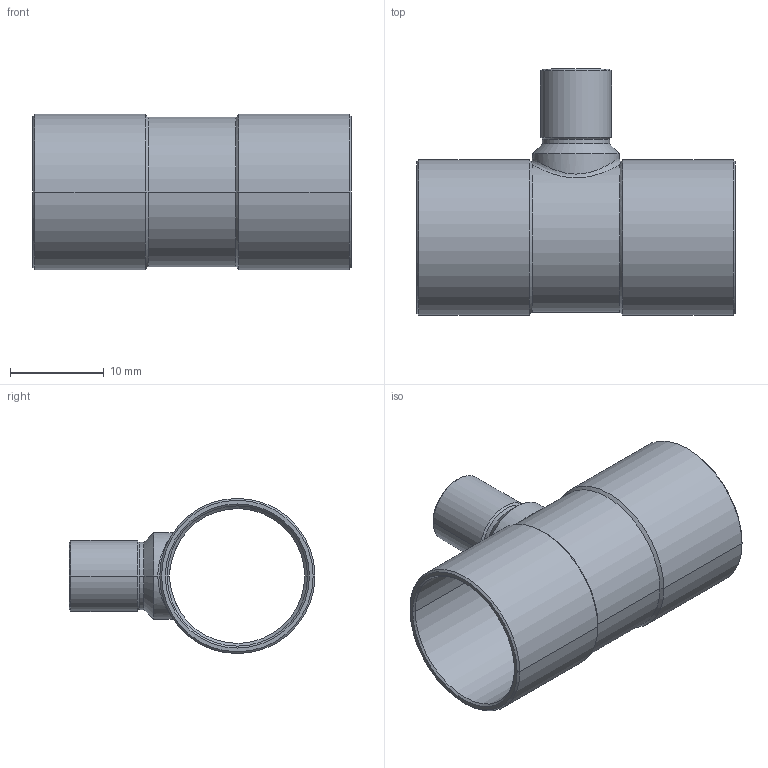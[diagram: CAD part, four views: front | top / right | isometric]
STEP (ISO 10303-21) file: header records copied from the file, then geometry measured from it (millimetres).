
FILE_DESCRIPTION((''),'2;1');
FILE_NAME('P:\Bouwmaten\z-maattekeningen 3D\5000\5130\513015615.stp','2005-10-26T11:53:02',('Kris'),(''),'Autodesk Inventor 8','Autodesk Inventor 8','');
FILE_SCHEMA(('AUTOMOTIVE_DESIGN { 1 0 10303 214 1 1 1 1 }'));
Length unit declared in the file: millimetre
Products named in the file (1): 513015615
Bounding box: 34 x 26.3 x 16.6 mm (x, y, z)
Volume: 1485 mm3; surface area: 3816 mm2
Topology: 1 solids, 1 shells, 57 faces, 128 edges, 72 vertices
Faces by surface type: cone 24, cylinder 20, bspline 10, plane 3
Entity records: 2113 total; most frequent: CARTESIAN_POINT 860, DIRECTION 260, ORIENTED_EDGE 256, EDGE_CURVE 128, AXIS2_PLACEMENT_3D 105, VERTEX_POINT 72, EDGE_LOOP 60, CIRCLE 57
